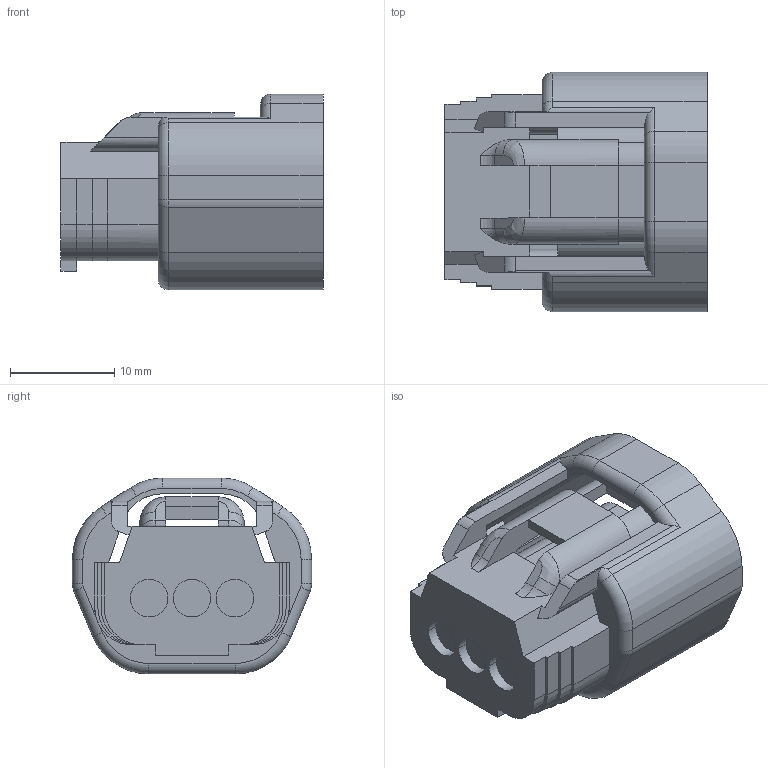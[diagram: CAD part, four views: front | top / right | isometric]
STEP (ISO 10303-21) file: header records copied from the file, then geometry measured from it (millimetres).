
FILE_DESCRIPTION(('CATIA V5 STEP Exchange','CAx-IF Rec.Pracs.--- Model Styling and Organization---1.2---2011-12-15'),'2;1');
FILE_NAME('N:\C-DAM_MyDesk\ENV\900093\6189-0734.stp','2015-06-24T01:34:15+00:00',('none'),('none'),'CATIA Version 5-6 Release 2012 SP4 HF74','CATIA V5 STEP AP214','none');
FILE_SCHEMA(('AUTOMOTIVE_DESIGN { 1 0 10303 214 1 1 1 1 }'));
Length unit declared in the file: millimetre
Products named in the file (1): 6189-0734
Bounding box: 25.1 x 22.9 x 18.75 mm (x, y, z)
Volume: 5019.3 mm3; surface area: 3885.7 mm2
Topology: 1 solids, 1 shells, 177 faces, 509 edges, 332 vertices
Faces by surface type: plane 103, cylinder 60, torus 10, bspline 4
Entity records: 5876 total; most frequent: CARTESIAN_POINT 1377, ORIENTED_EDGE 1018, DIRECTION 776, EDGE_CURVE 509, VECTOR 351, LINE 351, VERTEX_POINT 332, AXIS2_PLACEMENT_3D 276
